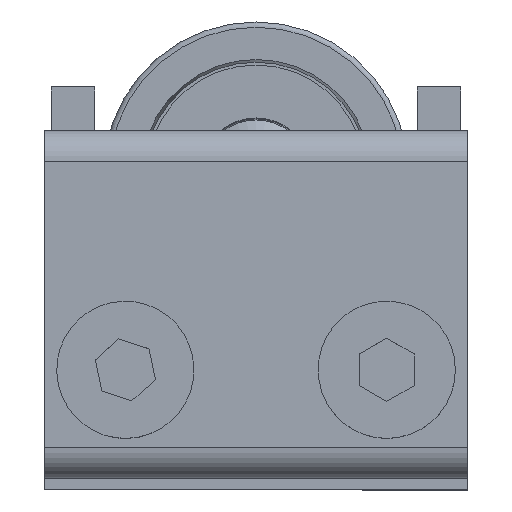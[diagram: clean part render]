
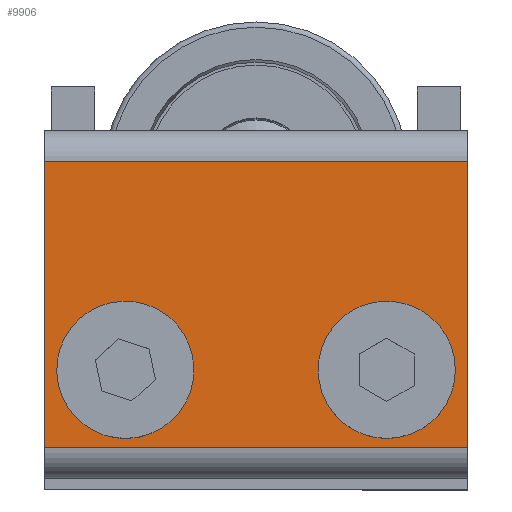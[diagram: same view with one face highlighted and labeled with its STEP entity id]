
A CAD part, top view. The second image highlights one B-rep face of the part: STEP entity #9906.
In plain terms, the highlighted planar face has unit normal (0, 0, 1) as drawn and (0, 0, -1) by its records, which use the part's own axes.
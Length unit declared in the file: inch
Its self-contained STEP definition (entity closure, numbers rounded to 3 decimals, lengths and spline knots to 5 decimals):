
#9599=DIRECTION('',(0.,-1.,0.));
#9600=VECTOR('',#9599,0.82);
#9601=CARTESIAN_POINT('',(-0.6075,0.41,-0.18));
#9602=LINE('',#9601,#9600);
#9625=DIRECTION('',(0.,-1.,0.));
#9626=VECTOR('',#9625,0.82);
#9627=CARTESIAN_POINT('',(0.6075,0.41,-0.18));
#9628=LINE('',#9627,#9626);
#9629=CARTESIAN_POINT('',(0.375,-0.188,-0.18));
#9630=DIRECTION('',(0.,0.,1.));
#9631=DIRECTION('',(1.,0.,0.));
#9632=AXIS2_PLACEMENT_3D('',#9629,#9630,#9631);
#9634=CARTESIAN_POINT('',(0.375,-0.188,-0.18));
#9635=DIRECTION('',(0.,0.,1.));
#9636=DIRECTION('',(-1.,0.,0.));
#9637=AXIS2_PLACEMENT_3D('',#9634,#9635,#9636);
#9639=CARTESIAN_POINT('',(-0.375,-0.188,-0.18));
#9640=DIRECTION('',(0.,0.,1.));
#9641=DIRECTION('',(1.,0.,0.));
#9642=AXIS2_PLACEMENT_3D('',#9639,#9640,#9641);
#9644=CARTESIAN_POINT('',(-0.375,-0.188,-0.18));
#9645=DIRECTION('',(0.,0.,1.));
#9646=DIRECTION('',(-1.,0.,0.));
#9647=AXIS2_PLACEMENT_3D('',#9644,#9645,#9646);
#9653=DIRECTION('',(-1.,0.,0.));
#9654=VECTOR('',#9653,1.215);
#9655=CARTESIAN_POINT('',(0.6075,0.41,-0.18));
#9656=LINE('',#9655,#9654);
#9677=DIRECTION('',(1.,0.,0.));
#9678=VECTOR('',#9677,1.215);
#9679=CARTESIAN_POINT('',(-0.6075,-0.41,-0.18));
#9680=LINE('',#9679,#9678);
#9741=CARTESIAN_POINT('',(0.6075,0.41,-0.18));
#9743=VERTEX_POINT('',#9741);
#9751=CARTESIAN_POINT('',(-0.6075,-0.41,-0.18));
#9753=VERTEX_POINT('',#9751);
#9756=CARTESIAN_POINT('',(0.6075,-0.41,-0.18));
#9758=VERTEX_POINT('',#9756);
#9761=CARTESIAN_POINT('',(-0.25,-0.188,-0.18));
#9762=CARTESIAN_POINT('',(-0.5,-0.188,-0.18));
#9763=VERTEX_POINT('',#9761);
#9764=VERTEX_POINT('',#9762);
#9789=CARTESIAN_POINT('',(0.5,-0.188,-0.18));
#9790=VERTEX_POINT('',#9789);
#9793=CARTESIAN_POINT('',(-0.6075,0.41,-0.18));
#9794=VERTEX_POINT('',#9793);
#9795=CARTESIAN_POINT('',(0.25,-0.188,-0.18));
#9796=VERTEX_POINT('',#9795);
#9881=CARTESIAN_POINT('',(0.6075,0.5,-0.18));
#9882=DIRECTION('',(0.,0.,1.));
#9883=DIRECTION('',(0.,-1.,0.));
#9884=AXIS2_PLACEMENT_3D('',#9881,#9882,#9883);
#9885=PLANE('',#9884);
#9886=ORIENTED_EDGE('',*,*,#9833,.F.);
#9888=ORIENTED_EDGE('',*,*,#9887,.T.);
#9889=ORIENTED_EDGE('',*,*,#9860,.T.);
#9891=ORIENTED_EDGE('',*,*,#9890,.T.);
#9892=EDGE_LOOP('',(#9886,#9888,#9889,#9891));
#9893=FACE_OUTER_BOUND('',#9892,.F.);
#9895=ORIENTED_EDGE('',*,*,#9894,.F.);
#9897=ORIENTED_EDGE('',*,*,#9896,.F.);
#9898=EDGE_LOOP('',(#9895,#9897));
#9899=FACE_BOUND('',#9898,.F.);
#9901=ORIENTED_EDGE('',*,*,#9900,.F.);
#9903=ORIENTED_EDGE('',*,*,#9902,.F.);
#9904=EDGE_LOOP('',(#9901,#9903));
#9905=FACE_BOUND('',#9904,.F.);
#9633=CIRCLE('',#9632,0.125);
#9638=CIRCLE('',#9637,0.125);
#9643=CIRCLE('',#9642,0.125);
#9648=CIRCLE('',#9647,0.125);
#9833=EDGE_CURVE('',#9743,#9758,#9628,.T.);
#9860=EDGE_CURVE('',#9794,#9753,#9602,.T.);
#9887=EDGE_CURVE('',#9743,#9794,#9656,.T.);
#9890=EDGE_CURVE('',#9753,#9758,#9680,.T.);
#9894=EDGE_CURVE('',#9790,#9796,#9633,.T.);
#9896=EDGE_CURVE('',#9796,#9790,#9638,.T.);
#9900=EDGE_CURVE('',#9763,#9764,#9643,.T.);
#9902=EDGE_CURVE('',#9764,#9763,#9648,.T.);
#9906=ADVANCED_FACE('',(#9893,#9899,#9905),#9885,.F.);
